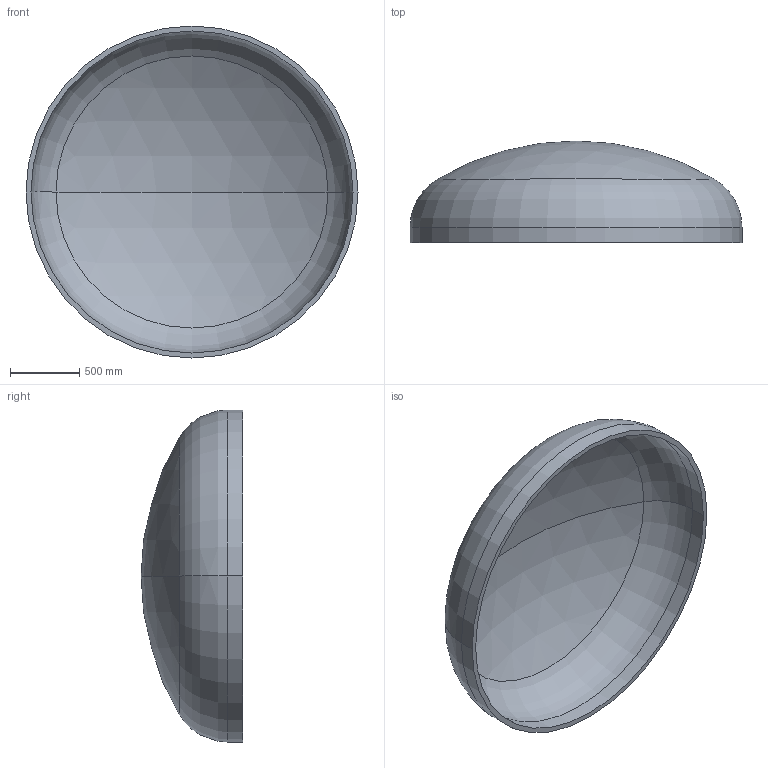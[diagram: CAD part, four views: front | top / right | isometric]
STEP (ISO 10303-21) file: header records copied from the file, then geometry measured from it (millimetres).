
FILE_DESCRIPTION (( 'STEP AP203' ), '1' );
FILE_NAME ('DIN 28013 Korbbogenform_-_Boden DIN 28013 - 2400 x 110 - I - s=36.step', '2016-07-01T15:18:45', ( '' ), ( '' ), 'SwSTEP 2.0', 'SolidWorks 2013', '' );
FILE_SCHEMA (( 'CONFIG_CONTROL_DESIGN' ));
Length unit declared in the file: millimetre
Products named in the file (1): DIN 28013 Korbbogenform_-_Boden DIN 28013 - 2400 x 110 - I - s=36
Bounding box: 2400 x 734.81 x 2400 mm (x, y, z)
Volume: 250591934.4 mm3; surface area: 14191845.8 mm2
Topology: 1 solids, 1 shells, 13 faces, 24 edges, 14 vertices
Faces by surface type: torus 4, cylinder 4, sphere 4, plane 1
Entity records: 407 total; most frequent: DIRECTION 72, CARTESIAN_POINT 52, ORIENTED_EDGE 48, AXIS2_PLACEMENT_3D 34, EDGE_CURVE 24, CIRCLE 20, EDGE_LOOP 14, VERTEX_POINT 14
